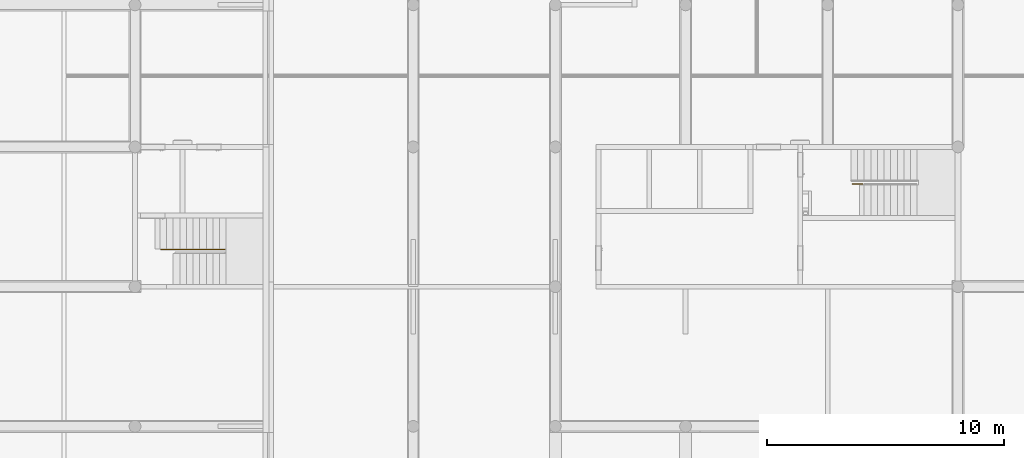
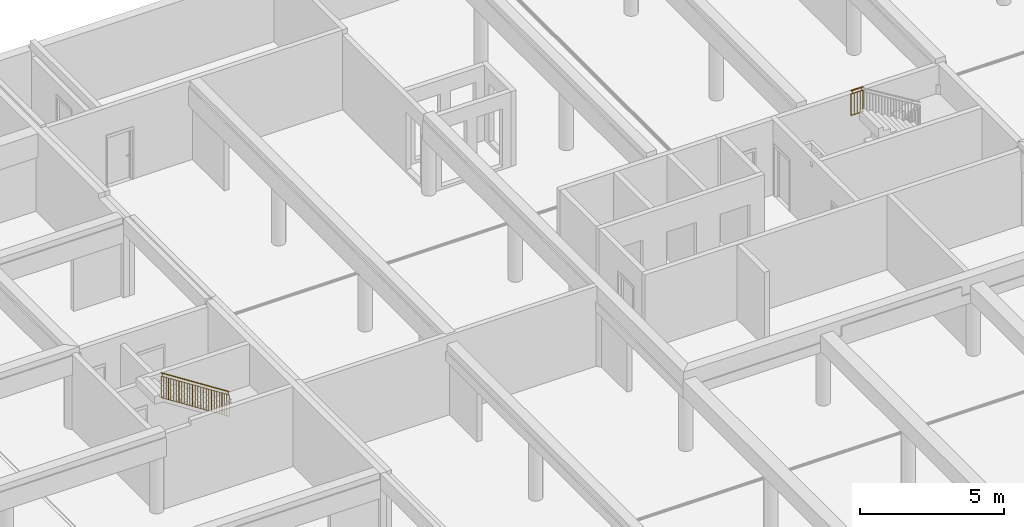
# One storey, part 14 of 25: 2 railings.
"""IFC2X3 building model written with IfcOpenShell, lengths in millimetres."""

from ifc_helpers import new_model, entity, si_unit, converted_unit, derived_unit, money_unit, direction, frame, origin_with_axes, place, context, subcontext, project, spatial, faceted_brep, material, material_list, type_object, element, save


model = new_model("IFC2X3")

# Units and contexts
model_context = context("Model", 3, precision=0.01, world=origin_with_axes(), true_north=direction((0.34421633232, 0.938890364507)))
body_context = subcontext(model_context, "Body", "Model", "MODEL_VIEW")
ifc_project = project(units=[si_unit("LENGTHUNIT", "METRE", prefix="MILLI"), si_unit("AREAUNIT", "SQUARE_METRE"), si_unit("VOLUMEUNIT", "CUBIC_METRE"), converted_unit("PLANEANGLEUNIT", "DEGREE", entity("IfcPlaneAngleMeasure", 0.0174532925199), si_unit("PLANEANGLEUNIT", "RADIAN"), dimensions=[0, 0, 0, 0, 0, 0, 0]), si_unit("SOLIDANGLEUNIT", "STERADIAN"), money_unit("USD"), converted_unit("TIMEUNIT", "Year", entity("IfcTimeMeasure", 31556926.0), si_unit("TIMEUNIT", "SECOND"), dimensions=[0, 0, 1, 0, 0, 0, 0]), si_unit("MASSUNIT", "GRAM", prefix="KILO"), si_unit("THERMODYNAMICTEMPERATUREUNIT", "DEGREE_CELSIUS"), si_unit("LUMINOUSINTENSITYUNIT", "LUMEN"), si_unit("ENERGYUNIT", "JOULE", prefix="MEGA"), derived_unit("THERMALCONDUCTANCEUNIT", [(si_unit("POWERUNIT", "WATT"), 1), (si_unit("LENGTHUNIT", "METRE"), -1), (si_unit("THERMODYNAMICTEMPERATUREUNIT", "KELVIN"), -1)]), derived_unit("SPECIFICHEATCAPACITYUNIT", [(si_unit("ENERGYUNIT", "JOULE"), 1), (si_unit("MASSUNIT", "GRAM", prefix="KILO"), -1), (si_unit("THERMODYNAMICTEMPERATUREUNIT", "KELVIN"), -1)]), derived_unit("MASSDENSITYUNIT", [(si_unit("MASSUNIT", "GRAM", prefix="KILO"), 1), (si_unit("VOLUMEUNIT", "CUBIC_METRE"), -1)])], contexts=[model_context])

# Site, building, storey
site_placement = place(None, origin_with_axes())
site = spatial("IfcSite", under=ifc_project, at=site_placement, Name="USTRONIE MORSKIE", CompositionType="ELEMENT")
building_placement = place(site_placement, origin_with_axes())
building = spatial("IfcBuilding", under=site, at=building_placement, Name="Budynek", CompositionType="ELEMENT")
storey_placement = place(building_placement, frame((0.0, 0.0, -3600.0), z_axis=(0.0, 0.0, 1.0), x_axis=(1.0, 0.0, 0.0)))
storey = spatial("IfcBuildingStorey", under=building, at=storey_placement, Name="GARAZ", CompositionType="ELEMENT", Elevation=-3600.0)

# Railings
ifc_material_1 = material(Name="Stal konstrukcyjna")
ifc_material_2 = material(Name="Stal nierdzewna")
ifc_material_list_1 = material_list([ifc_material_1, ifc_material_1, ifc_material_2, ifc_material_2, ifc_material_2, ifc_material_1, ifc_material_1, ifc_material_1, ifc_material_1, ifc_material_1, ifc_material_1, ifc_material_1, ifc_material_1, ifc_material_1, ifc_material_1, ifc_material_1, ifc_material_1, ifc_material_1, ifc_material_1, ifc_material_1, ifc_material_1, ifc_material_1, ifc_material_1, ifc_material_1, ifc_material_1, ifc_material_1, ifc_material_1, ifc_material_1, ifc_material_1, ifc_material_1])
railing_type = type_object("IfcRailingType", Name="Typ balustrady", PredefinedType="NOTDEFINED")
railing_1_placement = place(storey_placement, frame((362617.920919, 728501.199036, 1827.0), z_axis=(0.0, 0.0, 1.0), x_axis=(1.0, 0.0, 0.0)))
element("IfcRailing", 1, at=railing_1_placement, inside=storey, type_object=railing_type, material=ifc_material_list_1, Name="BL1", PredefinedType="NOTDEFINED", context=body_context, shape_type="Brep", body=[
    faceted_brep([(52.0589237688, -45.0, 1589.49566944), (52.0589237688, -25.0, 1589.49566944), (52.0589237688, -25.0, 2489.49566944), (52.0589237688, -45.0, 2489.49566944), (32.0589237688, -45.0, 1602.3528123), (32.0589237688, -25.0, 1602.3528123), (47.0589237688, -40.0, 1592.70995515), (47.0589237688, -30.0, 1592.70995515), (37.0589237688, -30.0, 1599.13852658), (37.0589237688, -40.0, 1599.13852658), (32.0589237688, -25.0, 2502.3528123), (32.0589237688, -45.0, 2502.3528123), (47.0589237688, -40.0, 2492.70995515), (37.0589237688, -40.0, 2499.13852658), (37.0589237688, -30.0, 2499.13852658), (47.0589237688, -30.0, 2492.70995515)], [[[0, 1, 2, 3]], [[0, 4, 5, 1], [6, 7, 8, 9]], [[1, 5, 10, 2]], [[3, 2, 10, 11], [12, 13, 14, 15]], [[4, 0, 3, 11]], [[5, 4, 11, 10]], [[7, 6, 12, 15]], [[8, 7, 15, 14]], [[9, 8, 14, 13]], [[6, 9, 13, 12]]]),
    faceted_brep([(2767.94107623, -45.0, -156.428571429), (2767.94107623, -25.0, -156.428571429), (2767.94107623, -25.0, 743.571428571), (2767.94107623, -45.0, 743.571428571), (2747.94107623, -45.0, -143.571428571), (2747.94107623, -25.0, -143.571428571), (2762.94107623, -40.0, -153.214285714), (2762.94107623, -30.0, -153.214285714), (2752.94107623, -30.0, -146.785714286), (2752.94107623, -40.0, -146.785714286), (2747.94107623, -25.0, 756.428571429), (2747.94107623, -45.0, 756.428571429), (2762.94107623, -40.0, 746.785714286), (2752.94107623, -40.0, 753.214285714), (2752.94107623, -30.0, 753.214285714), (2762.94107623, -30.0, 746.785714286)], [[[0, 1, 2, 3]], [[0, 4, 5, 1], [6, 7, 8, 9]], [[1, 5, 10, 2]], [[3, 2, 10, 11], [12, 13, 14, 15]], [[4, 0, 3, 11]], [[5, 4, 11, 10]], [[7, 6, 12, 15]], [[8, 7, 15, 14]], [[9, 8, 14, 13]], [[6, 9, 13, 12]]]),
    faceted_brep([(42.0589237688, -59.9999999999, 2645.92424087), (28.539983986, -59.9999999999, 2624.89477898), (2744.42213645, -59.9999999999, 878.970538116), (2757.94107623, -59.9999999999, 900.0), (42.0589237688, -9.99999999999, 2645.92424087), (28.539983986, -9.99999999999, 2624.89477898), (28.539983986, -25.0, 2624.89477898), (31.2437719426, -25.0, 2629.10067136), (31.2437719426, -45.0, 2629.10067136), (28.539983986, -45.0, 2624.89477898), (2744.42213645, -45.0, 878.970538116), (2747.1259244, -45.0, 883.176430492), (2747.1259244, -25.0, 883.176430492), (2744.42213645, -25.0, 878.970538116), (2744.42213645, -9.99999999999, 878.970538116), (2757.94107623, -9.99999999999, 900.0)], [[[0, 1, 2, 3]], [[0, 4, 5, 6, 7, 8, 9, 1]], [[1, 9, 10, 2]], [[3, 2, 10, 11, 12, 13, 14, 15]], [[4, 0, 3, 15]], [[5, 4, 15, 14]], [[6, 5, 14, 13]], [[7, 6, 13, 12]], [[8, 7, 12, 11]], [[9, 8, 11, 10]]]),
    faceted_brep([(28.539983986, -45.0, 2624.89477898), (28.539983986, -25.0, 2624.89477898), (2744.42213645, -25.0, 878.970538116), (2744.42213645, -45.0, 878.970538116), (31.2437719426, -45.0, 2629.10067136), (31.2437719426, -25.0, 2629.10067136), (2747.1259244, -25.0, 883.176430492), (2747.1259244, -45.0, 883.176430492)], [[[0, 1, 2, 3]], [[0, 4, 5, 1]], [[1, 5, 6, 2]], [[3, 2, 6, 7]], [[4, 0, 3, 7]], [[5, 4, 7, 6]]]),
    faceted_brep([(86.6178475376, -45.0, 2469.16615242), (86.6178475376, -25.0, 2469.16615242), (86.6178475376, -25.0, 2589.16615242), (86.6178475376, -45.0, 2589.16615242), (81.6178475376, -45.0, 2469.16615242), (81.6178475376, -25.0, 2469.16615242), (81.6178475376, -25.0, 2590.77329527), (84.1178475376, -25.0, 2590.77329527), (84.1178475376, -45.0, 2590.77329527), (81.6178475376, -45.0, 2590.77329527)], [[[0, 1, 2, 3]], [[0, 4, 5, 1]], [[1, 5, 6, 7, 2]], [[7, 8, 3, 2]], [[4, 0, 3, 8, 9]], [[5, 4, 9, 6]], [[7, 6, 9, 8]]]),
    faceted_brep([(2718.38215246, -45.0, 777.317670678), (2718.38215246, -25.0, 777.317670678), (2718.38215246, -25.0, 897.317670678), (2718.38215246, -45.0, 897.317670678), (2713.38215246, -45.0, 777.317670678), (2713.38215246, -25.0, 777.317670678), (2713.38215246, -25.0, 898.924813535), (2715.88215246, -25.0, 898.924813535), (2715.88215246, -45.0, 898.924813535), (2713.38215246, -45.0, 898.924813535)], [[[0, 1, 2, 3]], [[0, 4, 5, 1]], [[1, 5, 6, 7, 2]], [[7, 8, 3, 2]], [[4, 0, 3, 8, 9]], [[5, 4, 9, 6]], [[7, 6, 9, 8]]]),
    faceted_brep([(42.0589237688, -54.9999999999, 2495.92424087), (39.3551358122, -54.9999999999, 2491.71834849), (2755.23728827, -54.9999999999, 745.794107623), (2757.94107623, -54.9999999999, 750.0), (42.0589237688, -15.0, 2495.92424087), (39.3551358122, -15.0, 2491.71834849), (2755.23728827, -15.0, 745.794107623), (2757.94107623, -15.0, 750.0)], [[[0, 1, 2, 3]], [[0, 4, 5, 1]], [[1, 5, 6, 2]], [[3, 2, 6, 7]], [[4, 0, 3, 7]], [[5, 4, 7, 6]]]),
    faceted_brep([(43.4108177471, -54.9999999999, 1588.02718706), (40.7070297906, -54.9999999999, 1583.82129468), (2756.58918225, -54.9999999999, -162.102946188), (2759.29297021, -54.9999999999, -157.897053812), (43.4108177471, -15.0, 1588.02718706), (40.7070297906, -15.0, 1583.82129468), (2756.58918225, -15.0, -162.102946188), (2759.29297021, -15.0, -157.897053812)], [[[0, 1, 2, 3]], [[0, 4, 5, 1]], [[1, 5, 6, 2]], [[3, 2, 6, 7]], [[4, 0, 3, 7]], [[5, 4, 7, 6]]]),
    faceted_brep([(142.794192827, -47.5, 1531.16585362), (142.794192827, -22.4999999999, 1531.16585362), (142.794192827, -22.4999999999, 2421.16585362), (142.794192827, -47.5, 2421.16585362), (132.794192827, -47.5, 1537.59442505), (132.794192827, -22.4999999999, 1537.59442505), (132.794192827, -22.4999999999, 2427.59442505), (132.794192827, -47.5, 2427.59442505)], [[[0, 1, 2, 3]], [[0, 4, 5, 1]], [[1, 5, 6, 2]], [[3, 2, 6, 7]], [[4, 0, 3, 7]], [[5, 4, 7, 6]]]),
    faceted_brep([(238.529461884, -47.5, 1469.62175208), (238.529461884, -22.4999999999, 1469.62175208), (238.529461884, -22.4999999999, 2359.62175208), (238.529461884, -47.5, 2359.62175208), (228.529461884, -47.5, 1476.05032351), (228.529461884, -22.4999999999, 1476.05032351), (228.529461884, -22.4999999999, 2366.05032351), (228.529461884, -47.5, 2366.05032351)], [[[0, 1, 2, 3]], [[0, 4, 5, 1]], [[1, 5, 6, 2]], [[3, 2, 6, 7]], [[4, 0, 3, 7]], [[5, 4, 7, 6]]]),
    faceted_brep([(334.264730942, -47.5, 1408.07765054), (334.264730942, -22.4999999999, 1408.07765054), (334.264730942, -22.4999999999, 2298.07765054), (334.264730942, -47.5, 2298.07765054), (324.264730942, -47.5, 1414.50622197), (324.264730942, -22.4999999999, 1414.50622197), (324.264730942, -22.4999999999, 2304.50622197), (324.264730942, -47.5, 2304.50622197)], [[[0, 1, 2, 3]], [[0, 4, 5, 1]], [[1, 5, 6, 2]], [[3, 2, 6, 7]], [[4, 0, 3, 7]], [[5, 4, 7, 6]]]),
    faceted_brep([(427.5, -50.0, 1348.14069186), (427.5, -20.0, 1348.14069186), (427.5, -20.0, 2238.14069186), (427.5, -50.0, 2238.14069186), (422.5, -50.0, 1351.35497758), (422.5, -20.0, 1351.35497758), (422.5, -20.0, 2241.35497758), (422.5, -50.0, 2241.35497758)], [[[0, 1, 2, 3]], [[0, 4, 5, 1]], [[1, 5, 6, 2]], [[3, 2, 6, 7]], [[4, 0, 3, 7]], [[5, 4, 7, 6]]]),
    faceted_brep([(538.333333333, -47.5, 1276.89069186), (538.333333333, -22.4999999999, 1276.89069186), (538.333333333, -22.4999999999, 2166.89069186), (538.333333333, -47.5, 2166.89069186), (528.333333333, -47.5, 1283.31926329), (528.333333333, -22.4999999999, 1283.31926329), (528.333333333, -22.4999999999, 2173.31926329), (528.333333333, -47.5, 2173.31926329)], [[[0, 1, 2, 3]], [[0, 4, 5, 1]], [[1, 5, 6, 2]], [[3, 2, 6, 7]], [[4, 0, 3, 7]], [[5, 4, 7, 6]]]),
    faceted_brep([(646.666666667, -47.5, 1207.24783472), (646.666666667, -22.4999999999, 1207.24783472), (646.666666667, -22.4999999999, 2097.24783472), (646.666666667, -47.5, 2097.24783472), (636.666666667, -47.5, 1213.67640615), (636.666666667, -22.4999999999, 1213.67640615), (636.666666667, -22.4999999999, 2103.67640615), (636.666666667, -47.5, 2103.67640615)], [[[0, 1, 2, 3]], [[0, 4, 5, 1]], [[1, 5, 6, 2]], [[3, 2, 6, 7]], [[4, 0, 3, 7]], [[5, 4, 7, 6]]]),
    faceted_brep([(755.0, -47.5, 1137.60497758), (755.0, -22.4999999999, 1137.60497758), (755.0, -22.4999999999, 2027.60497758), (755.0, -47.5, 2027.60497758), (745.0, -47.5, 1144.03354901), (745.0, -22.4999999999, 1144.03354901), (745.0, -22.4999999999, 2034.03354901), (745.0, -47.5, 2034.03354901)], [[[0, 1, 2, 3]], [[0, 4, 5, 1]], [[1, 5, 6, 2]], [[3, 2, 6, 7]], [[4, 0, 3, 7]], [[5, 4, 7, 6]]]),
    faceted_brep([(863.333333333, -47.5, 1067.96212043), (863.333333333, -22.4999999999, 1067.96212043), (863.333333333, -22.4999999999, 1957.96212043), (863.333333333, -47.5, 1957.96212043), (853.333333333, -47.5, 1074.39069186), (853.333333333, -22.4999999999, 1074.39069186), (853.333333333, -22.4999999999, 1964.39069186), (853.333333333, -47.5, 1964.39069186)], [[[0, 1, 2, 3]], [[0, 4, 5, 1]], [[1, 5, 6, 2]], [[3, 2, 6, 7]], [[4, 0, 3, 7]], [[5, 4, 7, 6]]]),
    faceted_brep([(971.666666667, -47.5, 998.319263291), (971.666666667, -22.4999999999, 998.319263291), (971.666666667, -22.4999999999, 1888.31926329), (971.666666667, -47.5, 1888.31926329), (961.666666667, -47.5, 1004.74783472), (961.666666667, -22.4999999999, 1004.74783472), (961.666666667, -22.4999999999, 1894.74783472), (961.666666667, -47.5, 1894.74783472)], [[[0, 1, 2, 3]], [[0, 4, 5, 1]], [[1, 5, 6, 2]], [[3, 2, 6, 7]], [[4, 0, 3, 7]], [[5, 4, 7, 6]]]),
    faceted_brep([(1077.5, -50.0, 930.283549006), (1077.5, -20.0, 930.283549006), (1077.5, -20.0, 1820.28354901), (1077.5, -50.0, 1820.28354901), (1072.5, -50.0, 933.49783472), (1072.5, -20.0, 933.49783472), (1072.5, -20.0, 1823.49783472), (1072.5, -50.0, 1823.49783472)], [[[0, 1, 2, 3]], [[0, 4, 5, 1]], [[1, 5, 6, 2]], [[3, 2, 6, 7]], [[4, 0, 3, 7]], [[5, 4, 7, 6]]]),
    faceted_brep([(1188.33333333, -47.5, 859.033549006), (1188.33333333, -22.4999999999, 859.033549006), (1188.33333333, -22.4999999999, 1749.03354901), (1188.33333333, -47.5, 1749.03354901), (1178.33333333, -47.5, 865.462120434), (1178.33333333, -22.4999999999, 865.462120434), (1178.33333333, -22.4999999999, 1755.46212043), (1178.33333333, -47.5, 1755.46212043)], [[[0, 1, 2, 3]], [[0, 4, 5, 1]], [[1, 5, 6, 2]], [[3, 2, 6, 7]], [[4, 0, 3, 7]], [[5, 4, 7, 6]]]),
    faceted_brep([(1296.66666667, -47.5, 789.390691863), (1296.66666667, -22.4999999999, 789.390691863), (1296.66666667, -22.4999999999, 1679.39069186), (1296.66666667, -47.5, 1679.39069186), (1286.66666667, -47.5, 795.819263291), (1286.66666667, -22.4999999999, 795.819263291), (1286.66666667, -22.4999999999, 1685.81926329), (1286.66666667, -47.5, 1685.81926329)], [[[0, 1, 2, 3]], [[0, 4, 5, 1]], [[1, 5, 6, 2]], [[3, 2, 6, 7]], [[4, 0, 3, 7]], [[5, 4, 7, 6]]]),
    faceted_brep([(1405.0, -47.5, 719.74783472), (1405.0, -22.4999999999, 719.74783472), (1405.0, -22.4999999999, 1609.74783472), (1405.0, -47.5, 1609.74783472), (1395.0, -47.5, 726.176406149), (1395.0, -22.4999999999, 726.176406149), (1395.0, -22.4999999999, 1616.17640615), (1395.0, -47.5, 1616.17640615)], [[[0, 1, 2, 3]], [[0, 4, 5, 1]], [[1, 5, 6, 2]], [[3, 2, 6, 7]], [[4, 0, 3, 7]], [[5, 4, 7, 6]]]),
    faceted_brep([(1513.33333333, -47.5, 650.104977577), (1513.33333333, -22.4999999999, 650.104977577), (1513.33333333, -22.4999999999, 1540.10497758), (1513.33333333, -47.5, 1540.10497758), (1503.33333333, -47.5, 656.533549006), (1503.33333333, -22.4999999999, 656.533549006), (1503.33333333, -22.4999999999, 1546.53354901), (1503.33333333, -47.5, 1546.53354901)], [[[0, 1, 2, 3]], [[0, 4, 5, 1]], [[1, 5, 6, 2]], [[3, 2, 6, 7]], [[4, 0, 3, 7]], [[5, 4, 7, 6]]]),
    faceted_brep([(1621.66666667, -47.5, 580.462120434), (1621.66666667, -22.4999999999, 580.462120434), (1621.66666667, -22.4999999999, 1470.46212043), (1621.66666667, -47.5, 1470.46212043), (1611.66666667, -47.5, 586.890691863), (1611.66666667, -22.4999999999, 586.890691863), (1611.66666667, -22.4999999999, 1476.89069186), (1611.66666667, -47.5, 1476.89069186)], [[[0, 1, 2, 3]], [[0, 4, 5, 1]], [[1, 5, 6, 2]], [[3, 2, 6, 7]], [[4, 0, 3, 7]], [[5, 4, 7, 6]]]),
    faceted_brep([(1727.5, -50.0, 512.426406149), (1727.5, -20.0, 512.426406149), (1727.5, -20.0, 1402.42640615), (1727.5, -50.0, 1402.42640615), (1722.5, -50.0, 515.640691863), (1722.5, -20.0, 515.640691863), (1722.5, -20.0, 1405.64069186), (1722.5, -50.0, 1405.64069186)], [[[0, 1, 2, 3]], [[0, 4, 5, 1]], [[1, 5, 6, 2]], [[3, 2, 6, 7]], [[4, 0, 3, 7]], [[5, 4, 7, 6]]]),
    faceted_brep([(1838.33333333, -47.5, 441.176406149), (1838.33333333, -22.4999999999, 441.176406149), (1838.33333333, -22.4999999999, 1331.17640615), (1838.33333333, -47.5, 1331.17640615), (1828.33333333, -47.5, 447.604977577), (1828.33333333, -22.4999999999, 447.604977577), (1828.33333333, -22.4999999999, 1337.60497758), (1828.33333333, -47.5, 1337.60497758)], [[[0, 1, 2, 3]], [[0, 4, 5, 1]], [[1, 5, 6, 2]], [[3, 2, 6, 7]], [[4, 0, 3, 7]], [[5, 4, 7, 6]]]),
    faceted_brep([(1946.66666667, -47.5, 371.533549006), (1946.66666667, -22.4999999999, 371.533549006), (1946.66666667, -22.4999999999, 1261.53354901), (1946.66666667, -47.5, 1261.53354901), (1936.66666667, -47.5, 377.962120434), (1936.66666667, -22.4999999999, 377.962120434), (1936.66666667, -22.4999999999, 1267.96212043), (1936.66666667, -47.5, 1267.96212043)], [[[0, 1, 2, 3]], [[0, 4, 5, 1]], [[1, 5, 6, 2]], [[3, 2, 6, 7]], [[4, 0, 3, 7]], [[5, 4, 7, 6]]]),
    faceted_brep([(2055.0, -47.5, 301.890691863), (2055.0, -22.4999999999, 301.890691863), (2055.0, -22.4999999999, 1191.89069186), (2055.0, -47.5, 1191.89069186), (2045.0, -47.5, 308.319263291), (2045.0, -22.4999999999, 308.319263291), (2045.0, -22.4999999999, 1198.31926329), (2045.0, -47.5, 1198.31926329)], [[[0, 1, 2, 3]], [[0, 4, 5, 1]], [[1, 5, 6, 2]], [[3, 2, 6, 7]], [[4, 0, 3, 7]], [[5, 4, 7, 6]]]),
    faceted_brep([(2163.33333333, -47.5, 232.24783472), (2163.33333333, -22.4999999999, 232.24783472), (2163.33333333, -22.4999999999, 1122.24783472), (2163.33333333, -47.5, 1122.24783472), (2153.33333333, -47.5, 238.676406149), (2153.33333333, -22.4999999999, 238.676406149), (2153.33333333, -22.4999999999, 1128.67640615), (2153.33333333, -47.5, 1128.67640615)], [[[0, 1, 2, 3]], [[0, 4, 5, 1]], [[1, 5, 6, 2]], [[3, 2, 6, 7]], [[4, 0, 3, 7]], [[5, 4, 7, 6]]]),
    faceted_brep([(2271.66666667, -47.5, 162.604977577), (2271.66666667, -22.4999999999, 162.604977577), (2271.66666667, -22.4999999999, 1052.60497758), (2271.66666667, -47.5, 1052.60497758), (2261.66666667, -47.5, 169.033549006), (2261.66666667, -22.4999999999, 169.033549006), (2261.66666667, -22.4999999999, 1059.03354901), (2261.66666667, -47.5, 1059.03354901)], [[[0, 1, 2, 3]], [[0, 4, 5, 1]], [[1, 5, 6, 2]], [[3, 2, 6, 7]], [[4, 0, 3, 7]], [[5, 4, 7, 6]]]),
    faceted_brep([(2377.5, -50.0, 94.5692632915), (2377.5, -20.0, 94.5692632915), (2377.5, -20.0, 984.569263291), (2377.5, -50.0, 984.569263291), (2372.5, -50.0, 97.7835490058), (2372.5, -20.0, 97.7835490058), (2372.5, -20.0, 987.783549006), (2372.5, -50.0, 987.783549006)], [[[0, 1, 2, 3]], [[0, 4, 5, 1]], [[1, 5, 6, 2]], [[3, 2, 6, 7]], [[4, 0, 3, 7]], [[5, 4, 7, 6]]]),
    faceted_brep([(2475.73526906, -47.5, 31.4180188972), (2475.73526906, -22.4999999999, 31.4180188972), (2475.73526906, -22.4999999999, 921.418018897), (2475.73526906, -47.5, 921.418018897), (2465.73526906, -47.5, 37.8465903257), (2465.73526906, -22.4999999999, 37.8465903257), (2465.73526906, -22.4999999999, 927.846590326), (2465.73526906, -47.5, 927.846590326)], [[[0, 1, 2, 3]], [[0, 4, 5, 1]], [[1, 5, 6, 2]], [[3, 2, 6, 7]], [[4, 0, 3, 7]], [[5, 4, 7, 6]]]),
    faceted_brep([(2571.47053812, -47.5, -30.12608264), (2571.47053812, -22.4999999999, -30.12608264), (2571.47053812, -22.4999999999, 859.87391736), (2571.47053812, -47.5, 859.87391736), (2561.47053812, -47.5, -23.6975112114), (2561.47053812, -22.4999999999, -23.6975112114), (2561.47053812, -22.4999999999, 866.302488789), (2561.47053812, -47.5, 866.302488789)], [[[0, 1, 2, 3]], [[0, 4, 5, 1]], [[1, 5, 6, 2]], [[3, 2, 6, 7]], [[4, 0, 3, 7]], [[5, 4, 7, 6]]]),
    faceted_brep([(2667.20580717, -47.5, -91.6701841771), (2667.20580717, -22.4999999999, -91.6701841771), (2667.20580717, -22.4999999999, 798.329815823), (2667.20580717, -47.5, 798.329815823), (2657.20580717, -47.5, -85.2416127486), (2657.20580717, -22.4999999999, -85.2416127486), (2657.20580717, -22.4999999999, 804.758387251), (2657.20580717, -47.5, 804.758387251)], [[[0, 1, 2, 3]], [[0, 4, 5, 1]], [[1, 5, 6, 2]], [[3, 2, 6, 7]], [[4, 0, 3, 7]], [[5, 4, 7, 6]]]),
])
ifc_material_list_2 = material_list([ifc_material_1, ifc_material_1, ifc_material_2, ifc_material_2, ifc_material_2, ifc_material_1, ifc_material_1, ifc_material_1])
railing_2_placement = place(storey_placement, frame((391797.920919, 731201.199036, 3600.0), z_axis=(0.0, 0.0, 1.0), x_axis=(1.0, 0.0, 0.0)))
element("IfcRailing", 2, at=railing_2_placement, inside=storey, type_object=railing_type, material=ifc_material_list_2, Name="BL1", PredefinedType="NOTDEFINED", context=body_context, shape_type="Brep", body=[
    faceted_brep([(50.0, 25.0, -150.0), (50.0, 45.0, -150.0), (50.0, 45.0, 750.0), (50.0, 25.0, 750.0), (30.0, 25.0, -150.0), (30.0, 45.0, -150.0), (45.0, 30.0, -150.0), (45.0, 40.0, -150.0), (35.0, 40.0, -150.0), (35.0, 30.0, -150.0), (30.0, 45.0, 750.0), (30.0, 25.0, 750.0), (45.0, 30.0, 750.0), (35.0, 30.0, 750.0), (35.0, 40.0, 750.0), (45.0, 40.0, 750.0)], [[[0, 1, 2, 3]], [[0, 4, 5, 1], [6, 7, 8, 9]], [[1, 5, 10, 2]], [[3, 2, 10, 11], [12, 13, 14, 15]], [[4, 0, 3, 11]], [[5, 4, 11, 10]], [[7, 6, 12, 15]], [[8, 7, 15, 14]], [[9, 8, 14, 13]], [[6, 9, 13, 12]]]),
    faceted_brep([(530.0, 25.0, -150.0), (530.0, 45.0, -150.0), (530.0, 45.0, 750.0), (530.0, 25.0, 750.0), (510.0, 25.0, -150.0), (510.0, 45.0, -150.0), (525.0, 30.0, -150.0), (525.0, 40.0, -150.0), (515.0, 40.0, -150.0), (515.0, 30.0, -150.0), (510.0, 45.0, 750.0), (510.0, 25.0, 750.0), (525.0, 30.0, 750.0), (515.0, 30.0, 750.0), (515.0, 40.0, 750.0), (525.0, 40.0, 750.0)], [[[0, 1, 2, 3]], [[0, 4, 5, 1], [6, 7, 8, 9]], [[1, 5, 10, 2]], [[3, 2, 10, 11], [12, 13, 14, 15]], [[4, 0, 3, 11]], [[5, 4, 11, 10]], [[7, 6, 12, 15]], [[8, 7, 15, 14]], [[9, 8, 14, 13]], [[6, 9, 13, 12]]]),
    faceted_brep([(40.0, 9.99999999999, 900.0), (40.0, 9.99999999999, 875.0), (520.0, 9.99999999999, 875.0), (520.0, 9.99999999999, 900.0), (40.0, 59.9999999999, 900.0), (40.0, 59.9999999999, 875.0), (40.0, 45.0, 875.0), (40.0, 45.0, 880.0), (40.0, 25.0, 880.0), (40.0, 25.0, 875.0), (520.0, 25.0, 875.0), (520.0, 25.0, 880.0), (520.0, 45.0, 880.0), (520.0, 45.0, 875.0), (520.0, 59.9999999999, 875.0), (520.0, 59.9999999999, 900.0)], [[[0, 1, 2, 3]], [[0, 4, 5, 6, 7, 8, 9, 1]], [[1, 9, 10, 2]], [[3, 2, 10, 11, 12, 13, 14, 15]], [[4, 0, 3, 15]], [[5, 4, 15, 14]], [[6, 5, 14, 13]], [[7, 6, 13, 12]], [[8, 7, 12, 11]], [[9, 8, 11, 10]]]),
    faceted_brep([(40.0, 25.0, 875.0), (40.0, 45.0, 875.0), (520.0, 45.0, 875.0), (520.0, 25.0, 875.0), (40.0, 25.0, 880.0), (40.0, 45.0, 880.0), (520.0, 45.0, 880.0), (520.0, 25.0, 880.0)], [[[0, 1, 2, 3]], [[0, 4, 5, 1]], [[1, 5, 6, 2]], [[3, 2, 6, 7]], [[4, 0, 3, 7]], [[5, 4, 7, 6]]]),
    faceted_brep([(92.5, 25.0, 755.0), (92.5, 45.0, 755.0), (92.5, 45.0, 875.0), (92.5, 25.0, 875.0), (87.5, 25.0, 755.0), (87.5, 45.0, 755.0), (87.5, 45.0, 875.0), (87.5, 25.0, 875.0)], [[[0, 1, 2, 3]], [[0, 4, 5, 1]], [[1, 5, 6, 2]], [[3, 2, 6, 7]], [[4, 0, 3, 7]], [[5, 4, 7, 6]]]),
    faceted_brep([(472.5, 25.0, 755.0), (472.5, 45.0, 755.0), (472.5, 45.0, 875.0), (472.5, 25.0, 875.0), (467.5, 25.0, 755.0), (467.5, 45.0, 755.0), (467.5, 45.0, 875.0), (467.5, 25.0, 875.0)], [[[0, 1, 2, 3]], [[0, 4, 5, 1]], [[1, 5, 6, 2]], [[3, 2, 6, 7]], [[4, 0, 3, 7]], [[5, 4, 7, 6]]]),
    faceted_brep([(40.0, 15.0, 750.0), (40.0, 15.0, 745.0), (520.0, 15.0, 745.0), (520.0, 15.0, 750.0), (40.0, 54.9999999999, 750.0), (40.0, 54.9999999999, 745.0), (520.0, 54.9999999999, 745.0), (520.0, 54.9999999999, 750.0)], [[[0, 1, 2, 3]], [[0, 4, 5, 1]], [[1, 5, 6, 2]], [[3, 2, 6, 7]], [[4, 0, 3, 7]], [[5, 4, 7, 6]]]),
    faceted_brep([(40.0, 15.0, -157.5), (40.0, 15.0, -162.5), (520.0, 15.0, -162.5), (520.0, 15.0, -157.5), (40.0, 54.9999999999, -157.5), (40.0, 54.9999999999, -162.5), (520.0, 54.9999999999, -162.5), (520.0, 54.9999999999, -157.5)], [[[0, 1, 2, 3]], [[0, 4, 5, 1]], [[1, 5, 6, 2]], [[3, 2, 6, 7]], [[4, 0, 3, 7]], [[5, 4, 7, 6]]]),
    faceted_brep([(162.5, 22.4999999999, -155.0), (162.5, 47.5, -155.0), (162.5, 47.5, 745.0), (162.5, 22.4999999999, 745.0), (157.5, 22.4999999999, -155.0), (157.5, 47.5, -155.0), (157.5, 47.5, 745.0), (157.5, 22.4999999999, 745.0)], [[[0, 1, 2, 3]], [[0, 4, 5, 1]], [[1, 5, 6, 2]], [[3, 2, 6, 7]], [[4, 0, 3, 7]], [[5, 4, 7, 6]]]),
    faceted_brep([(282.5, 22.4999999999, -155.0), (282.5, 47.5, -155.0), (282.5, 47.5, 745.0), (282.5, 22.4999999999, 745.0), (277.5, 22.4999999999, -155.0), (277.5, 47.5, -155.0), (277.5, 47.5, 745.0), (277.5, 22.4999999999, 745.0)], [[[0, 1, 2, 3]], [[0, 4, 5, 1]], [[1, 5, 6, 2]], [[3, 2, 6, 7]], [[4, 0, 3, 7]], [[5, 4, 7, 6]]]),
    faceted_brep([(402.5, 22.4999999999, -155.0), (402.5, 47.5, -155.0), (402.5, 47.5, 745.0), (402.5, 22.4999999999, 745.0), (397.5, 22.4999999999, -155.0), (397.5, 47.5, -155.0), (397.5, 47.5, 745.0), (397.5, 22.4999999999, 745.0)], [[[0, 1, 2, 3]], [[0, 4, 5, 1]], [[1, 5, 6, 2]], [[3, 2, 6, 7]], [[4, 0, 3, 7]], [[5, 4, 7, 6]]]),
])

save(model, "model.ifc")
